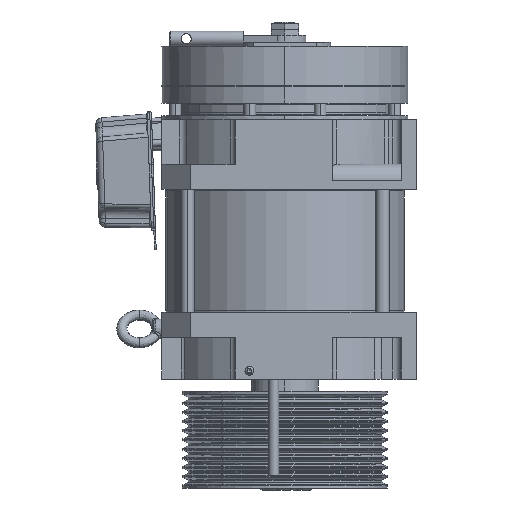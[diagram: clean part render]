
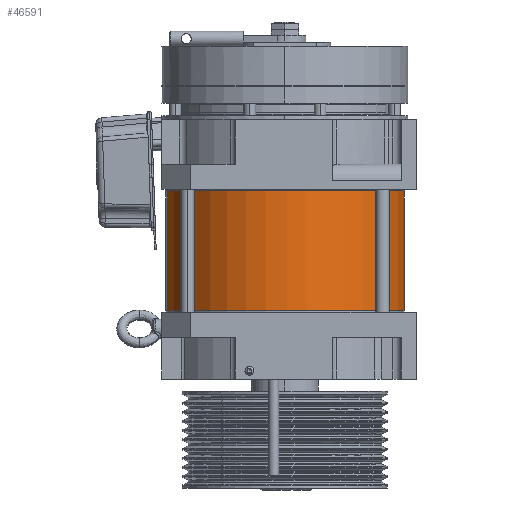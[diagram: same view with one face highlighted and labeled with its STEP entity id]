
A CAD part, left-side view. The second image highlights one B-rep face of the part: STEP entity #46591.
In plain terms, the highlighted cylindrical face has radius 142.5 mm (diameter 285 mm), a partial arc.
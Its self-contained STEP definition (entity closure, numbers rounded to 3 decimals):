
#1538 = AXIS2_PLACEMENT_3D ( 'NONE', #28446, #62961, #42623 ) ;
#6666 = ORIENTED_EDGE ( 'NONE', *, *, #11483, .F. ) ;
#6689 = CARTESIAN_POINT ( 'NONE',  ( -199.239, -122.602, 197.5 ) ) ;
#7359 = CYLINDRICAL_SURFACE ( 'NONE', #74791, 142.5 ) ;
#11483 = EDGE_CURVE ( 'NONE', #80570, #70678, #66694, .T. ) ;
#12182 = DIRECTION ( 'NONE',  ( 0., 0., 1. ) ) ;
#13673 = CARTESIAN_POINT ( 'NONE',  ( -253.006, 157.281, 54.5 ) ) ;
#16247 = CARTESIAN_POINT ( 'NONE',  ( -226.123, 17.34, 28.5 ) ) ;
#17301 = EDGE_LOOP ( 'NONE', ( #6666, #19870, #86105, #25878 ) ) ;
#17946 = VERTEX_POINT ( 'NONE', #6689 ) ;
#19870 = ORIENTED_EDGE ( 'NONE', *, *, #53783, .F. ) ;
#21015 = CARTESIAN_POINT ( 'NONE',  ( -226.123, 17.34, 197.5 ) ) ;
#25878 = ORIENTED_EDGE ( 'NONE', *, *, #49603, .F. ) ;
#28446 = CARTESIAN_POINT ( 'NONE',  ( -226.123, 17.34, 54.5 ) ) ;
#36194 = DIRECTION ( 'NONE',  ( 0., 0., 1. ) ) ;
#41549 = FACE_OUTER_BOUND ( 'NONE', #17301, .T. ) ;
#42309 = VECTOR ( 'NONE', #12182, 1000. ) ;
#42623 = DIRECTION ( 'NONE',  ( -0.189, 0.982, 0. ) ) ;
#46591 = ADVANCED_FACE ( 'NONE', ( #41549 ), #7359, .T. ) ;
#47284 = CARTESIAN_POINT ( 'NONE',  ( -253.006, 157.281, 28.5 ) ) ;
#49603 = EDGE_CURVE ( 'NONE', #70678, #17946, #61627, .T. ) ;
#51262 = DIRECTION ( 'NONE',  ( 0.189, -0.982, 0. ) ) ;
#53783 = EDGE_CURVE ( 'NONE', #85625, #80570, #78034, .T. ) ;
#54697 = DIRECTION ( 'NONE',  ( 0., 0., 1. ) ) ;
#57494 = DIRECTION ( 'NONE',  ( 0., 0., 1. ) ) ;
#58372 = CARTESIAN_POINT ( 'NONE',  ( -199.239, -122.602, 28.5 ) ) ;
#61627 = CIRCLE ( 'NONE', #80006, 142.5 ) ;
#62961 = DIRECTION ( 'NONE',  ( 0., 0., -1. ) ) ;
#63726 = LINE ( 'NONE', #58372, #73816 ) ;
#66220 = EDGE_CURVE ( 'NONE', #85625, #17946, #63726, .T. ) ;
#66694 = LINE ( 'NONE', #47284, #42309 ) ;
#70460 = DIRECTION ( 'NONE',  ( 0.189, -0.982, 0. ) ) ;
#70678 = VERTEX_POINT ( 'NONE', #77657 ) ;
#73816 = VECTOR ( 'NONE', #57494, 1000. ) ;
#74791 = AXIS2_PLACEMENT_3D ( 'NONE', #16247, #36194, #51262 ) ;
#74843 = CARTESIAN_POINT ( 'NONE',  ( -199.239, -122.602, 54.5 ) ) ;
#77657 = CARTESIAN_POINT ( 'NONE',  ( -253.006, 157.281, 197.5 ) ) ;
#78034 = CIRCLE ( 'NONE', #1538, 142.5 ) ;
#80006 = AXIS2_PLACEMENT_3D ( 'NONE', #21015, #54697, #70460 ) ;
#80570 = VERTEX_POINT ( 'NONE', #13673 ) ;
#85625 = VERTEX_POINT ( 'NONE', #74843 ) ;
#86105 = ORIENTED_EDGE ( 'NONE', *, *, #66220, .T. ) ;
